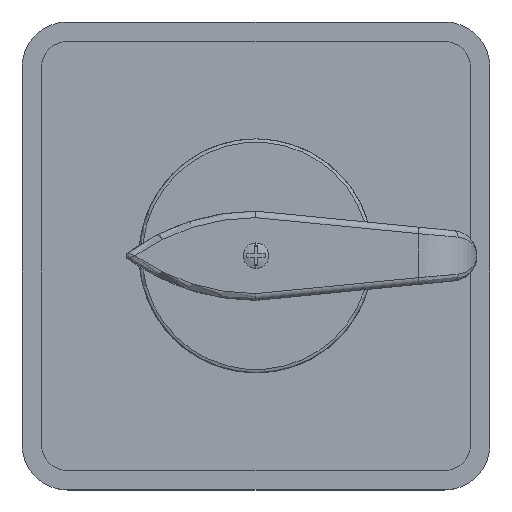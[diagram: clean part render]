
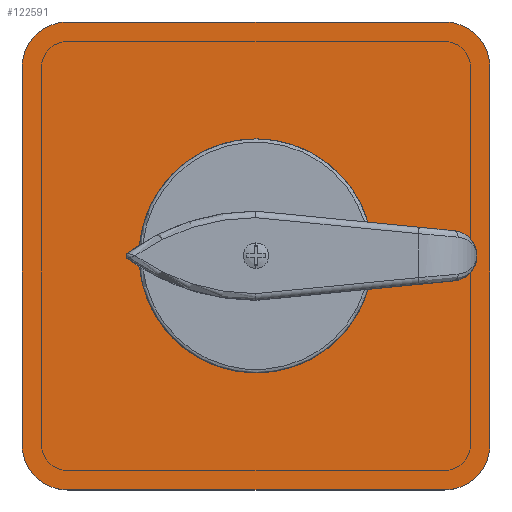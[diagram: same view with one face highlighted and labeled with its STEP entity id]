
A CAD part, top view. The second image highlights one B-rep face of the part: STEP entity #122591.
In plain terms, the highlighted planar face has unit normal (0, 0, 1).
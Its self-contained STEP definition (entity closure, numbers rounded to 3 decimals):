
#40390=CARTESIAN_POINT('',(29.,29.,3.35));
#40391=DIRECTION('',(0.,0.,1.));
#40392=DIRECTION('',(1.,0.,0.));
#40393=AXIS2_PLACEMENT_3D('',#40390,#40391,#40392);
#40395=DIRECTION('',(0.,1.,0.));
#40396=VECTOR('',#40395,58.);
#40397=CARTESIAN_POINT('',(36.,-29.,3.35));
#40398=LINE('',#40397,#40396);
#40399=CARTESIAN_POINT('',(29.,-29.,3.35));
#40400=DIRECTION('',(0.,0.,1.));
#40401=DIRECTION('',(0.,-1.,0.));
#40402=AXIS2_PLACEMENT_3D('',#40399,#40400,#40401);
#40404=DIRECTION('',(1.,0.,0.));
#40405=VECTOR('',#40404,58.);
#40406=CARTESIAN_POINT('',(-29.,-36.,3.35));
#40407=LINE('',#40406,#40405);
#40408=CARTESIAN_POINT('',(-29.,-29.,3.35));
#40409=DIRECTION('',(0.,0.,1.));
#40410=DIRECTION('',(-1.,0.,0.));
#40411=AXIS2_PLACEMENT_3D('',#40408,#40409,#40410);
#40413=DIRECTION('',(0.,-1.,0.));
#40414=VECTOR('',#40413,58.);
#40415=CARTESIAN_POINT('',(-36.,29.,3.35));
#40416=LINE('',#40415,#40414);
#40417=CARTESIAN_POINT('',(-29.,29.,3.35));
#40418=DIRECTION('',(0.,0.,1.));
#40419=DIRECTION('',(0.,1.,0.));
#40420=AXIS2_PLACEMENT_3D('',#40417,#40418,#40419);
#40422=DIRECTION('',(-1.,0.,0.));
#40423=VECTOR('',#40422,58.);
#40424=CARTESIAN_POINT('',(29.,36.,3.35));
#40425=LINE('',#40424,#40423);
#40426=DIRECTION('',(1.,0.,0.));
#40427=VECTOR('',#40426,8.);
#40428=CARTESIAN_POINT('',(-4.,4.,3.35));
#40429=LINE('',#40428,#40427);
#40438=DIRECTION('',(0.,-1.,0.));
#40439=VECTOR('',#40438,8.);
#40440=CARTESIAN_POINT('',(4.,4.,3.35));
#40441=LINE('',#40440,#40439);
#40450=DIRECTION('',(-1.,0.,0.));
#40451=VECTOR('',#40450,8.);
#40452=CARTESIAN_POINT('',(4.,-4.,3.35));
#40453=LINE('',#40452,#40451);
#40462=DIRECTION('',(0.,1.,0.));
#40463=VECTOR('',#40462,8.);
#40464=CARTESIAN_POINT('',(-4.,-4.,3.35));
#40465=LINE('',#40464,#40463);
#41313=CARTESIAN_POINT('',(0.,0.,3.35));
#41314=DIRECTION('',(0.,0.,1.));
#41315=DIRECTION('',(-0.947,0.322,0.));
#41316=AXIS2_PLACEMENT_3D('',#41313,#41314,#41315);
#41323=DIRECTION('',(-1.,0.,0.));
#41324=VECTOR('',#41323,1.727);
#41325=CARTESIAN_POINT('',(-8.52,-2.9,3.35));
#41326=LINE('',#41325,#41324);
#41348=CARTESIAN_POINT('',(0.,0.,3.35));
#41349=DIRECTION('',(0.,0.,1.));
#41350=DIRECTION('',(-0.962,0.272,0.));
#41351=AXIS2_PLACEMENT_3D('',#41348,#41349,#41350);
#41358=DIRECTION('',(1.,0.,0.));
#41359=VECTOR('',#41358,1.727);
#41360=CARTESIAN_POINT('',(-10.247,2.9,3.35));
#41361=LINE('',#41360,#41359);
#41383=CARTESIAN_POINT('',(0.,0.,3.35));
#41384=DIRECTION('',(0.,0.,1.));
#41385=DIRECTION('',(0.322,0.947,0.));
#41386=AXIS2_PLACEMENT_3D('',#41383,#41384,#41385);
#41393=DIRECTION('',(0.,1.,0.));
#41394=VECTOR('',#41393,1.727);
#41395=CARTESIAN_POINT('',(-2.9,8.52,3.35));
#41396=LINE('',#41395,#41394);
#41418=CARTESIAN_POINT('',(0.,0.,3.35));
#41419=DIRECTION('',(0.,0.,1.));
#41420=DIRECTION('',(0.272,0.962,0.));
#41421=AXIS2_PLACEMENT_3D('',#41418,#41419,#41420);
#41428=DIRECTION('',(0.,-1.,0.));
#41429=VECTOR('',#41428,1.727);
#41430=CARTESIAN_POINT('',(2.9,10.247,3.35));
#41431=LINE('',#41430,#41429);
#41453=CARTESIAN_POINT('',(0.,0.,3.35));
#41454=DIRECTION('',(0.,0.,1.));
#41455=DIRECTION('',(0.947,-0.322,0.));
#41456=AXIS2_PLACEMENT_3D('',#41453,#41454,#41455);
#41467=DIRECTION('',(1.,0.,0.));
#41468=VECTOR('',#41467,1.727);
#41469=CARTESIAN_POINT('',(8.52,2.9,3.35));
#41470=LINE('',#41469,#41468);
#41488=CARTESIAN_POINT('',(0.,0.,3.35));
#41489=DIRECTION('',(0.,0.,1.));
#41490=DIRECTION('',(0.962,-0.272,0.));
#41491=AXIS2_PLACEMENT_3D('',#41488,#41489,#41490);
#41498=DIRECTION('',(-1.,0.,0.));
#41499=VECTOR('',#41498,1.727);
#41500=CARTESIAN_POINT('',(10.247,-2.9,3.35));
#41501=LINE('',#41500,#41499);
#41523=CARTESIAN_POINT('',(0.,0.,3.35));
#41524=DIRECTION('',(0.,0.,1.));
#41525=DIRECTION('',(-0.322,-0.947,0.));
#41526=AXIS2_PLACEMENT_3D('',#41523,#41524,#41525);
#41533=DIRECTION('',(0.,-1.,0.));
#41534=VECTOR('',#41533,1.727);
#41535=CARTESIAN_POINT('',(2.9,-8.52,3.35));
#41536=LINE('',#41535,#41534);
#41558=CARTESIAN_POINT('',(0.,0.,3.35));
#41559=DIRECTION('',(0.,0.,1.));
#41560=DIRECTION('',(-0.272,-0.962,0.));
#41561=AXIS2_PLACEMENT_3D('',#41558,#41559,#41560);
#41568=DIRECTION('',(0.,1.,0.));
#41569=VECTOR('',#41568,1.727);
#41570=CARTESIAN_POINT('',(-2.9,-10.247,3.35));
#41571=LINE('',#41570,#41569);
#56279=CARTESIAN_POINT('',(36.,29.,3.35));
#56280=VERTEX_POINT('',#56279);
#56281=CARTESIAN_POINT('',(29.,36.,3.35));
#56282=VERTEX_POINT('',#56281);
#56287=CARTESIAN_POINT('',(29.,-36.,3.35));
#56288=VERTEX_POINT('',#56287);
#56289=CARTESIAN_POINT('',(36.,-29.,3.35));
#56290=VERTEX_POINT('',#56289);
#56295=CARTESIAN_POINT('',(-36.,-29.,3.35));
#56296=VERTEX_POINT('',#56295);
#56297=CARTESIAN_POINT('',(-29.,-36.,3.35));
#56298=VERTEX_POINT('',#56297);
#56303=CARTESIAN_POINT('',(-29.,36.,3.35));
#56304=VERTEX_POINT('',#56303);
#56305=CARTESIAN_POINT('',(-36.,29.,3.35));
#56306=VERTEX_POINT('',#56305);
#71295=CARTESIAN_POINT('',(-2.9,-8.52,3.35));
#71296=CARTESIAN_POINT('',(2.9,-8.52,3.35));
#71297=VERTEX_POINT('',#71295);
#71298=VERTEX_POINT('',#71296);
#71299=CARTESIAN_POINT('',(8.52,-2.9,3.35));
#71300=CARTESIAN_POINT('',(8.52,2.9,3.35));
#71301=VERTEX_POINT('',#71299);
#71302=VERTEX_POINT('',#71300);
#71303=CARTESIAN_POINT('',(2.9,8.52,3.35));
#71304=CARTESIAN_POINT('',(-2.9,8.52,3.35));
#71305=VERTEX_POINT('',#71303);
#71306=VERTEX_POINT('',#71304);
#71307=CARTESIAN_POINT('',(-8.52,2.9,3.35));
#71308=CARTESIAN_POINT('',(-8.52,-2.9,3.35));
#71309=VERTEX_POINT('',#71307);
#71310=VERTEX_POINT('',#71308);
#71327=CARTESIAN_POINT('',(10.247,-2.9,3.35));
#71328=VERTEX_POINT('',#71327);
#71331=CARTESIAN_POINT('',(10.247,2.9,3.35));
#71332=VERTEX_POINT('',#71331);
#71335=CARTESIAN_POINT('',(2.9,10.247,3.35));
#71336=VERTEX_POINT('',#71335);
#71339=CARTESIAN_POINT('',(-2.9,10.247,3.35));
#71340=VERTEX_POINT('',#71339);
#71343=CARTESIAN_POINT('',(-10.247,2.9,3.35));
#71344=VERTEX_POINT('',#71343);
#71347=CARTESIAN_POINT('',(-10.247,-2.9,3.35));
#71348=VERTEX_POINT('',#71347);
#71351=CARTESIAN_POINT('',(-2.9,-10.247,3.35));
#71352=VERTEX_POINT('',#71351);
#71355=CARTESIAN_POINT('',(2.9,-10.247,3.35));
#71356=VERTEX_POINT('',#71355);
#71359=CARTESIAN_POINT('',(-4.,4.,3.35));
#71360=CARTESIAN_POINT('',(4.,4.,3.35));
#71361=VERTEX_POINT('',#71359);
#71362=VERTEX_POINT('',#71360);
#71367=CARTESIAN_POINT('',(4.,-4.,3.35));
#71368=VERTEX_POINT('',#71367);
#71371=CARTESIAN_POINT('',(-4.,-4.,3.35));
#71372=VERTEX_POINT('',#71371);
#122526=CARTESIAN_POINT('',(0.,0.,3.35));
#122527=DIRECTION('',(0.,0.,1.));
#122528=DIRECTION('',(1.,0.,0.));
#122529=AXIS2_PLACEMENT_3D('',#122526,#122527,#122528);
#122530=PLANE('',#122529);
#122531=ORIENTED_EDGE('',*,*,#122422,.F.);
#122532=ORIENTED_EDGE('',*,*,#122438,.F.);
#122533=ORIENTED_EDGE('',*,*,#122451,.F.);
#122534=ORIENTED_EDGE('',*,*,#122466,.F.);
#122535=ORIENTED_EDGE('',*,*,#122479,.F.);
#122536=ORIENTED_EDGE('',*,*,#122494,.F.);
#122537=ORIENTED_EDGE('',*,*,#122507,.F.);
#122538=ORIENTED_EDGE('',*,*,#122519,.F.);
#122539=EDGE_LOOP('',(#122531,#122532,#122533,#122534,#122535,#122536,#122537,
#122538));
#122540=FACE_OUTER_BOUND('',#122539,.F.);
#122542=ORIENTED_EDGE('',*,*,#122541,.F.);
#122544=ORIENTED_EDGE('',*,*,#122543,.F.);
#122546=ORIENTED_EDGE('',*,*,#122545,.F.);
#122548=ORIENTED_EDGE('',*,*,#122547,.F.);
#122549=EDGE_LOOP('',(#122542,#122544,#122546,#122548));
#122550=FACE_BOUND('',#122549,.F.);
#122552=ORIENTED_EDGE('',*,*,#122551,.F.);
#122554=ORIENTED_EDGE('',*,*,#122553,.F.);
#122556=ORIENTED_EDGE('',*,*,#122555,.T.);
#122558=ORIENTED_EDGE('',*,*,#122557,.F.);
#122559=EDGE_LOOP('',(#122552,#122554,#122556,#122558));
#122560=FACE_BOUND('',#122559,.F.);
#122562=ORIENTED_EDGE('',*,*,#122561,.F.);
#122564=ORIENTED_EDGE('',*,*,#122563,.F.);
#122566=ORIENTED_EDGE('',*,*,#122565,.T.);
#122568=ORIENTED_EDGE('',*,*,#122567,.F.);
#122569=EDGE_LOOP('',(#122562,#122564,#122566,#122568));
#122570=FACE_BOUND('',#122569,.F.);
#122572=ORIENTED_EDGE('',*,*,#122571,.F.);
#122574=ORIENTED_EDGE('',*,*,#122573,.F.);
#122576=ORIENTED_EDGE('',*,*,#122575,.T.);
#122578=ORIENTED_EDGE('',*,*,#122577,.F.);
#122579=EDGE_LOOP('',(#122572,#122574,#122576,#122578));
#122580=FACE_BOUND('',#122579,.F.);
#122582=ORIENTED_EDGE('',*,*,#122581,.F.);
#122584=ORIENTED_EDGE('',*,*,#122583,.F.);
#122586=ORIENTED_EDGE('',*,*,#122585,.T.);
#122588=ORIENTED_EDGE('',*,*,#122587,.F.);
#122589=EDGE_LOOP('',(#122582,#122584,#122586,#122588));
#122590=FACE_BOUND('',#122589,.F.);
#122591=ADVANCED_FACE('',(#122540,#122550,#122560,#122570,#122580,#122590),
#122530,.T.);
#40394=CIRCLE('',#40393,7.);
#40403=CIRCLE('',#40402,7.);
#40412=CIRCLE('',#40411,7.);
#40421=CIRCLE('',#40420,7.);
#41317=CIRCLE('',#41316,9.);
#41352=CIRCLE('',#41351,10.65);
#41387=CIRCLE('',#41386,9.);
#41422=CIRCLE('',#41421,10.65);
#41457=CIRCLE('',#41456,9.);
#41492=CIRCLE('',#41491,10.65);
#41527=CIRCLE('',#41526,9.);
#41562=CIRCLE('',#41561,10.65);
#122422=EDGE_CURVE('',#56280,#56282,#40394,.T.);
#122438=EDGE_CURVE('',#56290,#56280,#40398,.T.);
#122451=EDGE_CURVE('',#56288,#56290,#40403,.T.);
#122466=EDGE_CURVE('',#56298,#56288,#40407,.T.);
#122479=EDGE_CURVE('',#56296,#56298,#40412,.T.);
#122494=EDGE_CURVE('',#56306,#56296,#40416,.T.);
#122507=EDGE_CURVE('',#56304,#56306,#40421,.T.);
#122519=EDGE_CURVE('',#56282,#56304,#40425,.T.);
#122541=EDGE_CURVE('',#71361,#71362,#40429,.T.);
#122543=EDGE_CURVE('',#71372,#71361,#40465,.T.);
#122545=EDGE_CURVE('',#71368,#71372,#40453,.T.);
#122547=EDGE_CURVE('',#71362,#71368,#40441,.T.);
#122551=EDGE_CURVE('',#71309,#71310,#41317,.T.);
#122553=EDGE_CURVE('',#71344,#71309,#41361,.T.);
#122555=EDGE_CURVE('',#71344,#71348,#41352,.T.);
#122557=EDGE_CURVE('',#71310,#71348,#41326,.T.);
#122561=EDGE_CURVE('',#71305,#71306,#41387,.T.);
#122563=EDGE_CURVE('',#71336,#71305,#41431,.T.);
#122565=EDGE_CURVE('',#71336,#71340,#41422,.T.);
#122567=EDGE_CURVE('',#71306,#71340,#41396,.T.);
#122571=EDGE_CURVE('',#71301,#71302,#41457,.T.);
#122573=EDGE_CURVE('',#71328,#71301,#41501,.T.);
#122575=EDGE_CURVE('',#71328,#71332,#41492,.T.);
#122577=EDGE_CURVE('',#71302,#71332,#41470,.T.);
#122581=EDGE_CURVE('',#71297,#71298,#41527,.T.);
#122583=EDGE_CURVE('',#71352,#71297,#41571,.T.);
#122585=EDGE_CURVE('',#71352,#71356,#41562,.T.);
#122587=EDGE_CURVE('',#71298,#71356,#41536,.T.);
